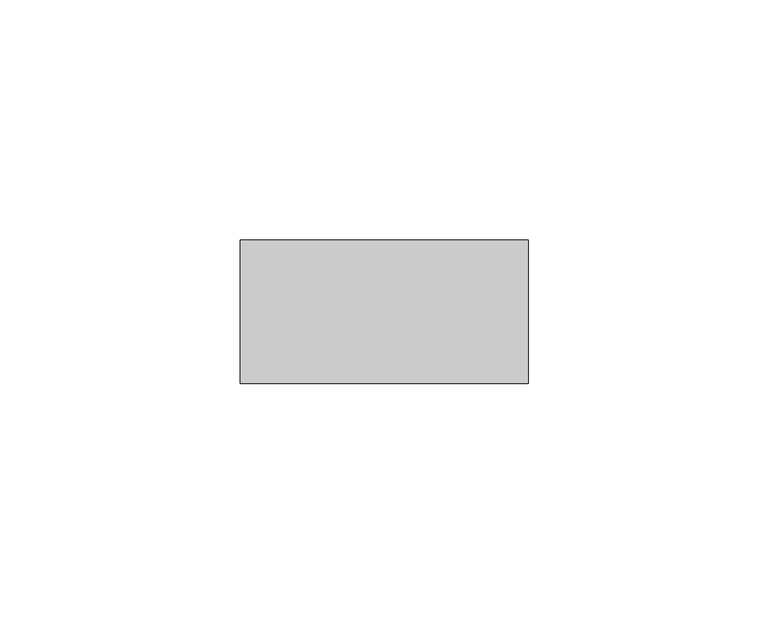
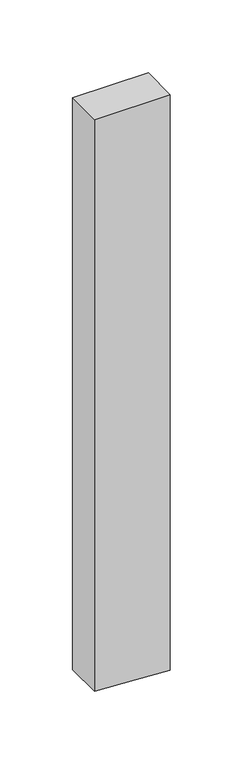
"""IFC4 building model written with IfcOpenShell, lengths in millimetres: member geometry, Прямоугольный импост : Квадрат 30 мм."""

from ifc_helpers import new_model, si_unit, frame, origin, place, context, project, spatial, polyline, outline, extrude, source, transform, mapped, element, save


def member_ef28eb08(model_context):
    return source(origin(), model_context, "Body", "SweptSolid", [
        extrude(outline(polyline([(0.0, 30.0), (0.0, -30.0), (-479.1358259, -30.0), (-480.9419708, 2.753035), (-482.4444871, 30.0), (0.0, 30.0)])), frame((0.0, -15.0, 0.0), z_axis=(0.0, 1.0, 0.0), x_axis=(0.0, 0.0, 1.0)), (0.0, 0.0, 1.0), 30.0),
    ])


if __name__ == "__main__":
    model = new_model("IFC4")
    model_context = context("Model", 3, world=origin())
    ifc_project = project(units=[si_unit("LENGTHUNIT", "METRE", prefix="MILLI")], contexts=[model_context])
    site = spatial("IfcSite", under=ifc_project)
    building = spatial("IfcBuilding", under=site)
    placement = place(None, origin())
    member_shape = member_ef28eb08(model_context)
    element("IfcMember", 1, ObjectType="Прямоугольный импост : Квадрат 30 мм", at=placement, inside=building, context=model_context, shape_type="MappedRepresentation", body=[
        mapped(member_shape, transform((0.0, 0.0, 0.0), x_axis=(1.0, 0.0, 0.0), y_axis=(0.0, 1.0, 0.0), z_axis=(0.0, 0.0, 1.0))),
    ])
    save(model, "model.ifc")
